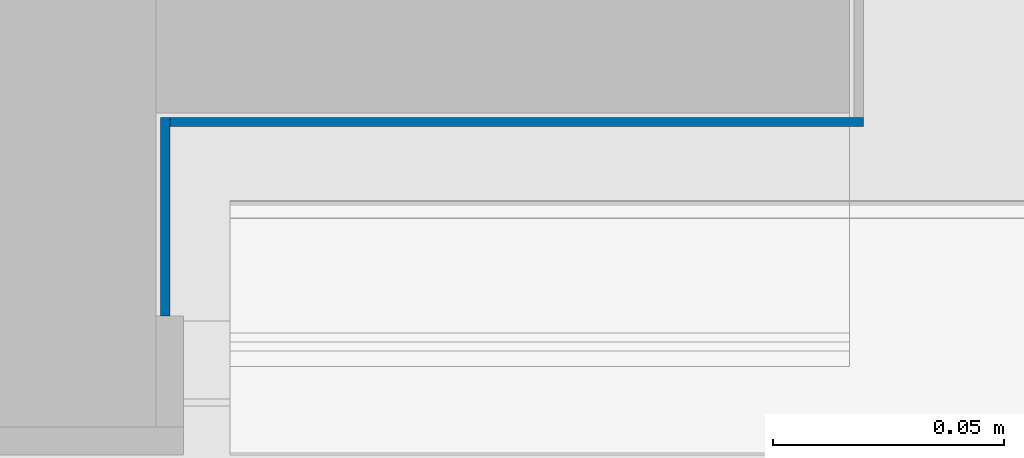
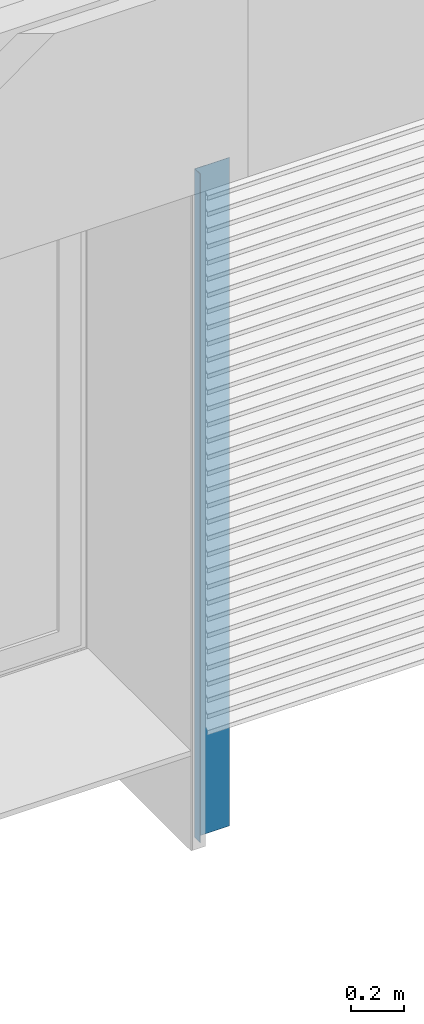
# One storey, part 22 of 165: 2 walls.
"""IFC2X3 building model written with IfcOpenShell, lengths in millimetres."""

from ifc_helpers import new_model, entity, si_unit, converted_unit, derived_unit, money_unit, direction, frame, origin_with_axes, place, context, subcontext, project, spatial, faceted_brep, material, type_object, element, save


model = new_model("IFC2X3")

# Units and contexts
model_context = context("Model", 3, precision=0.01, world=origin_with_axes(), true_north=direction((0.0, 1.0)))
body_context = subcontext(model_context, "Body", "Model", "MODEL_VIEW")
ifc_project = project(units=[si_unit("LENGTHUNIT", "METRE", prefix="MILLI"), si_unit("AREAUNIT", "SQUARE_METRE"), si_unit("VOLUMEUNIT", "CUBIC_METRE"), converted_unit("PLANEANGLEUNIT", "DEGREE", entity("IfcPlaneAngleMeasure", 0.0174532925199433), si_unit("PLANEANGLEUNIT", "RADIAN"), dimensions=[0, 0, 0, 0, 0, 0, 0]), money_unit("EUR"), converted_unit("TIMEUNIT", "Year", entity("IfcTimeMeasure", 31556926.0), si_unit("TIMEUNIT", "SECOND"), dimensions=[0, 0, 1, 0, 0, 0, 0]), si_unit("MASSUNIT", "GRAM", prefix="KILO"), si_unit("THERMODYNAMICTEMPERATUREUNIT", "DEGREE_CELSIUS"), si_unit("LUMINOUSINTENSITYUNIT", "LUMEN"), si_unit("ENERGYUNIT", "JOULE", prefix="MEGA"), derived_unit("THERMALCONDUCTANCEUNIT", [(si_unit("POWERUNIT", "WATT"), 1), (si_unit("LENGTHUNIT", "METRE"), -1), (si_unit("THERMODYNAMICTEMPERATUREUNIT", "KELVIN"), -1)]), derived_unit("SPECIFICHEATCAPACITYUNIT", [(si_unit("ENERGYUNIT", "JOULE"), 1), (si_unit("MASSUNIT", "GRAM", prefix="KILO"), -1), (si_unit("THERMODYNAMICTEMPERATUREUNIT", "KELVIN"), -1)]), derived_unit("MASSDENSITYUNIT", [(si_unit("MASSUNIT", "GRAM", prefix="KILO"), 1), (si_unit("VOLUMEUNIT", "CUBIC_METRE"), -1)])], contexts=[model_context])

# Site, building, storey
site_placement = place(None, origin_with_axes())
site = spatial("IfcSite", under=ifc_project, at=site_placement, Name="Site", CompositionType="ELEMENT")
building_placement = place(site_placement, origin_with_axes())
building = spatial("IfcBuilding", under=site, at=building_placement, Name="Naam gebouw", CompositionType="ELEMENT")
storey_placement = place(building_placement, origin_with_axes())
storey = spatial("IfcBuildingStorey", under=building, at=storey_placement, Name="Begane grond", CompositionType="ELEMENT", Elevation=0.0)

# Walls
ifc_material = material(Name="Metaal - Staal C")
wall_type = type_object("IfcWallType", Name="Metaal - Staal C 2", PredefinedType="NOTDEFINED")
wall_1_placement = place(storey_placement, frame((11411.00000000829, -144.0001676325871, -485.0), z_axis=(0.0, 0.0, 1.0), x_axis=(0.0, 1.0, 0.0)))
element("IfcWall", 1, at=wall_1_placement, inside=storey, type_object=wall_type, material=ifc_material, Name="21_Wand-x", context=body_context, shape_type="Brep", body=[
    faceted_brep([(43.00016763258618, -2.000000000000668, 3095.0), (43.00016763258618, 0.0, 3095.0), (0.0, 0.0, 3095.0), (0.0, -2.000000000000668, 3095.0), (43.00016763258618, -2.000000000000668, 0.0), (43.00016763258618, 0.0, 0.0), (0.0, 0.0, 0.0), (0.0, -2.000000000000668, 0.0)], [[[0, 1, 2, 3]], [[1, 0, 4, 5]], [[1, 5, 6, 2]], [[7, 3, 2, 6]], [[4, 0, 3, 7]], [[5, 4, 7, 6]]]),
])
wall_2_placement = place(storey_placement, frame((11411.00000000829, -101.0000000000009, -485.0), z_axis=(0.0, 0.0, 1.0), x_axis=(1.0, 0.0, 0.0)))
element("IfcWall", 2, at=wall_2_placement, inside=storey, type_object=wall_type, material=ifc_material, Name="21_Wand-x", context=body_context, shape_type="Brep", body=[
    faceted_brep([(152.000000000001, -1.999999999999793, 3095.0), (152.000000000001, 0.0, 3095.0), (2.000000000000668, 0.0, 3095.0), (2.000000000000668, -1.999999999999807, 3095.0), (152.000000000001, -1.999999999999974, 0.0), (152.000000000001, 0.0, 0.0), (2.000000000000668, 0.0, 0.0), (2.000000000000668, -1.999999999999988, 0.0)], [[[0, 1, 2, 3]], [[1, 0, 4, 5]], [[1, 5, 6, 2]], [[7, 3, 2, 6]], [[4, 0, 3, 7]], [[5, 4, 7, 6]]]),
])

save(model, "model.ifc")
